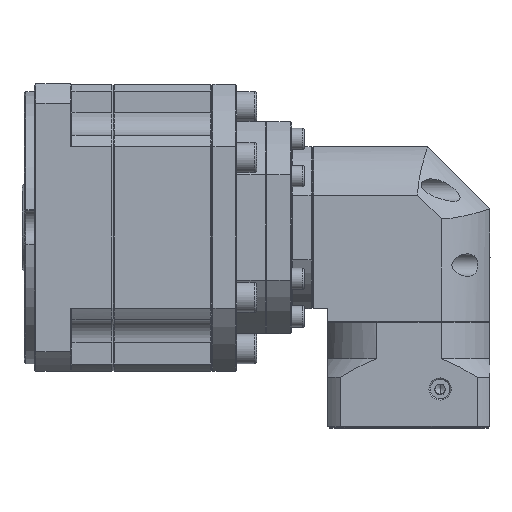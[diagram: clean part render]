
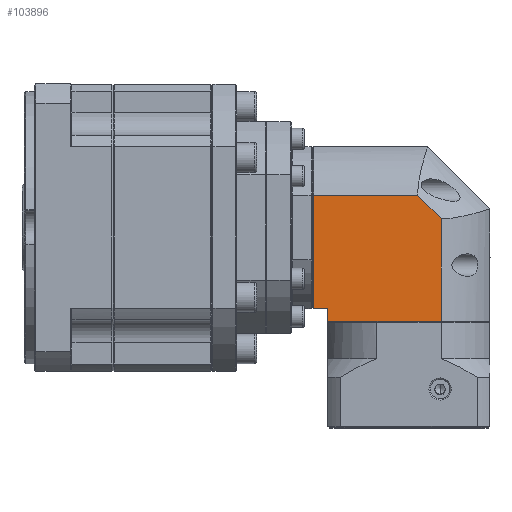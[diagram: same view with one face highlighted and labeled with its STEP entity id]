
A CAD part, top view. The second image highlights one B-rep face of the part: STEP entity #103896.
In plain terms, the highlighted planar face has unit normal (0, 0, 1).
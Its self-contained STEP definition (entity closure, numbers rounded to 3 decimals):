
#274 = ORIENTED_EDGE ( 'NONE', *, *, #98845, .T. ) ;
#1676 = CARTESIAN_POINT ( 'NONE',  ( -1.166, 0.353, -83.297 ) ) ;
#7412 = VECTOR ( 'NONE', #144840, 1000. ) ;
#24859 = VECTOR ( 'NONE', #93663, 1000. ) ;
#25012 = CARTESIAN_POINT ( 'NONE',  ( -46.656, -35.64, -83.297 ) ) ;
#25584 = ORIENTED_EDGE ( 'NONE', *, *, #165224, .T. ) ;
#25787 = EDGE_CURVE ( 'NONE', #33161, #59339, #124916, .T. ) ;
#29127 = LINE ( 'NONE', #107405, #24859 ) ;
#31312 = ORIENTED_EDGE ( 'NONE', *, *, #31433, .T. ) ;
#31433 = EDGE_CURVE ( 'NONE', #66348, #88947, #128154, .T. ) ;
#33161 = VERTEX_POINT ( 'NONE', #66426 ) ;
#33204 = VECTOR ( 'NONE', #161736, 1000. ) ;
#42029 = CARTESIAN_POINT ( 'NONE',  ( -46.656, 29.36, -83.297 ) ) ;
#43736 = VERTEX_POINT ( 'NONE', #118147 ) ;
#50294 = EDGE_CURVE ( 'NONE', #88947, #128475, #85183, .T. ) ;
#51096 = CARTESIAN_POINT ( 'NONE',  ( -52.356, 9.851, -83.297 ) ) ;
#53005 = VECTOR ( 'NONE', #55799, 1000. ) ;
#53442 = CARTESIAN_POINT ( 'NONE',  ( -52.356, -35.64, -83.297 ) ) ;
#55564 = CARTESIAN_POINT ( 'NONE',  ( -46.656, -40.64, -83.297 ) ) ;
#55799 = DIRECTION ( 'NONE',  ( 0., -1., 0. ) ) ;
#59188 = ORIENTED_EDGE ( 'NONE', *, *, #91104, .T. ) ;
#59339 = VERTEX_POINT ( 'NONE', #51096 ) ;
#66348 = VERTEX_POINT ( 'NONE', #107856 ) ;
#66426 = CARTESIAN_POINT ( 'NONE',  ( -10.663, 9.851, -83.297 ) ) ;
#79270 = CARTESIAN_POINT ( 'NONE',  ( -56.656, 29.36, -83.297 ) ) ;
#79669 = CARTESIAN_POINT ( 'NONE',  ( -1.166, 29.36, -83.297 ) ) ;
#82019 = CARTESIAN_POINT ( 'NONE',  ( 18.344, 9.851, -83.297 ) ) ;
#85183 = LINE ( 'NONE', #42029, #53005 ) ;
#87289 = VERTEX_POINT ( 'NONE', #1676 ) ;
#88087 = DIRECTION ( 'NONE',  ( 1., 0., 0. ) ) ;
#88947 = VERTEX_POINT ( 'NONE', #25012 ) ;
#91104 = EDGE_CURVE ( 'NONE', #43736, #87289, #106131, .T. ) ;
#92987 = DIRECTION ( 'NONE',  ( -1., 0., 0. ) ) ;
#93663 = DIRECTION ( 'NONE',  ( 1., 0., 0. ) ) ;
#94377 = VECTOR ( 'NONE', #149318, 1000. ) ;
#95309 = FACE_OUTER_BOUND ( 'NONE', #177917, .T. ) ;
#98845 = EDGE_CURVE ( 'NONE', #87289, #33161, #153414, .T. ) ;
#103896 = ADVANCED_FACE ( 'NONE', ( #95309 ), #106127, .F. ) ;
#106127 = PLANE ( 'NONE',  #120193 ) ;
#106131 = LINE ( 'NONE', #79669, #33204 ) ;
#107405 = CARTESIAN_POINT ( 'NONE',  ( -56.656, -40.64, -83.297 ) ) ;
#107856 = CARTESIAN_POINT ( 'NONE',  ( -52.356, -35.64, -83.297 ) ) ;
#117265 = CARTESIAN_POINT ( 'NONE',  ( -371.968, 371.156, -83.297 ) ) ;
#118147 = CARTESIAN_POINT ( 'NONE',  ( -1.166, -40.64, -83.297 ) ) ;
#120193 = AXIS2_PLACEMENT_3D ( 'NONE', #79270, #175138, #92987 ) ;
#121077 = ORIENTED_EDGE ( 'NONE', *, *, #25787, .T. ) ;
#124575 = EDGE_CURVE ( 'NONE', #128475, #43736, #29127, .T. ) ;
#124916 = LINE ( 'NONE', #82019, #157154 ) ;
#128154 = LINE ( 'NONE', #170199, #160362 ) ;
#128475 = VERTEX_POINT ( 'NONE', #55564 ) ;
#144840 = DIRECTION ( 'NONE',  ( -0.707, 0.707, 0. ) ) ;
#149318 = DIRECTION ( 'NONE',  ( 0., -1., 0. ) ) ;
#153414 = LINE ( 'NONE', #117265, #7412 ) ;
#157154 = VECTOR ( 'NONE', #164109, 1000. ) ;
#160362 = VECTOR ( 'NONE', #88087, 1000. ) ;
#161736 = DIRECTION ( 'NONE',  ( 0., 1., 0. ) ) ;
#164109 = DIRECTION ( 'NONE',  ( -1., 0., 0. ) ) ;
#165224 = EDGE_CURVE ( 'NONE', #59339, #66348, #167328, .T. ) ;
#167328 = LINE ( 'NONE', #53442, #94377 ) ;
#170199 = CARTESIAN_POINT ( 'NONE',  ( -56.656, -35.64, -83.297 ) ) ;
#171231 = ORIENTED_EDGE ( 'NONE', *, *, #50294, .T. ) ;
#175138 = DIRECTION ( 'NONE',  ( 0., 0., -1. ) ) ;
#176906 = ORIENTED_EDGE ( 'NONE', *, *, #124575, .T. ) ;
#177917 = EDGE_LOOP ( 'NONE', ( #59188, #274, #121077, #25584, #31312, #171231, #176906 ) ) ;
